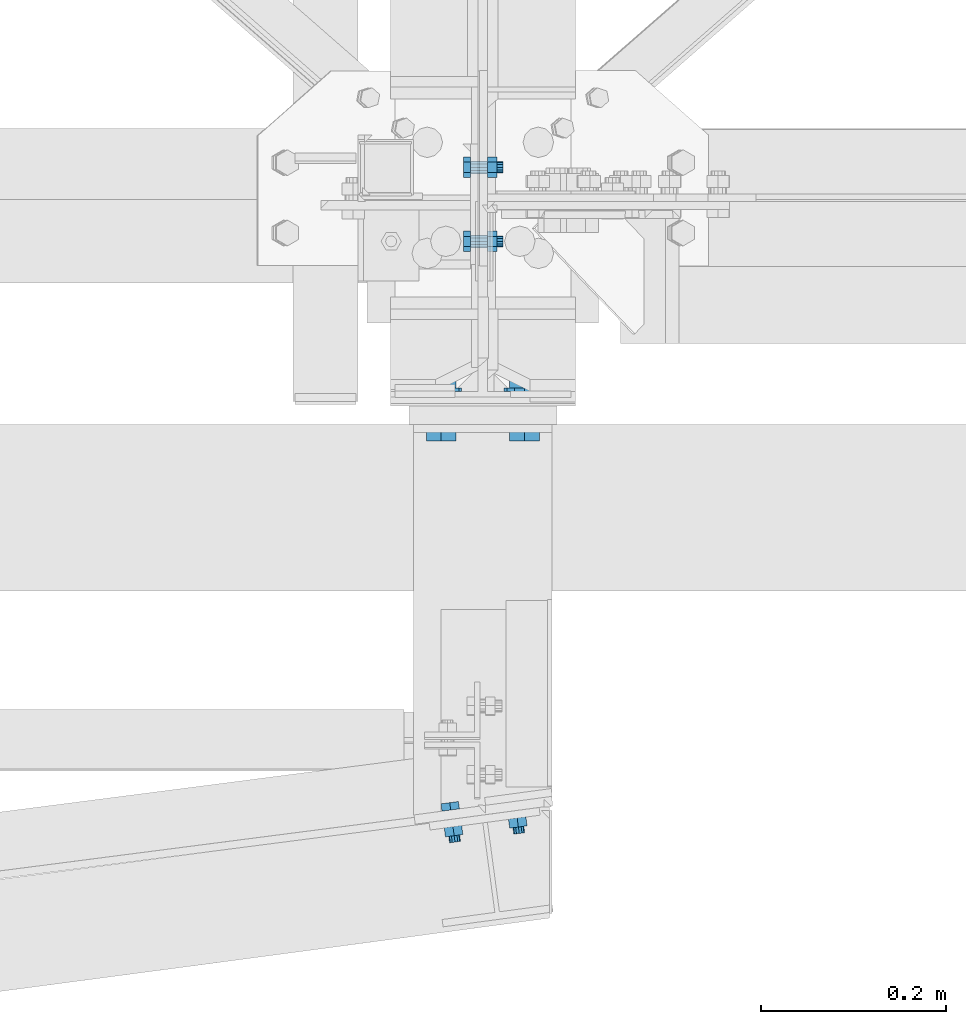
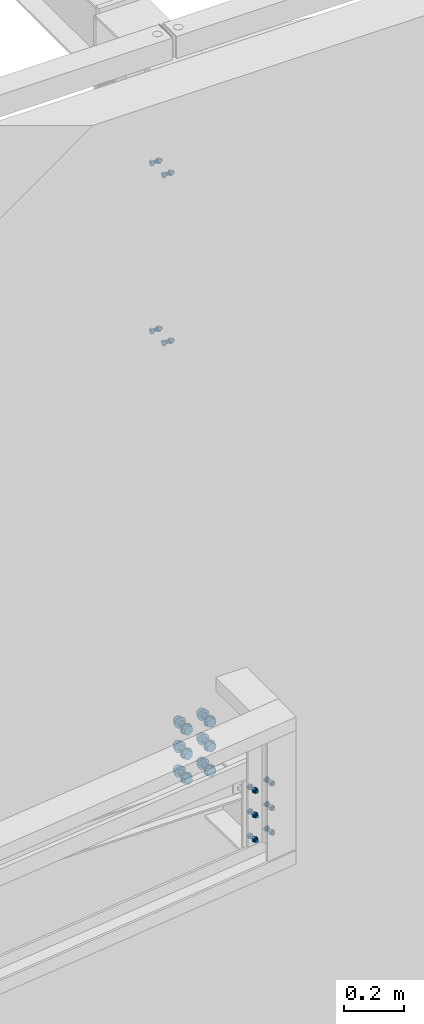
# One storey, part 108 of 3134: 4 mechanical fasteners, 3 elements without a shape of their own.
"""IFC2X3 building model written with IfcOpenShell, lengths in millimetres."""

from ifc_helpers import new_model, si_unit, frame, origin_with_axes, place, context, subcontext, project, spatial, faceted_brep, source, transform, mapped, material, type_object, element, aggregate, save


model = new_model("IFC2X3")

# Units and contexts
model_context = context("Model", 3, precision=1e-05, world=origin_with_axes())
body_context = subcontext(model_context, "Body", "Model", "MODEL_VIEW")
ifc_project = project(units=[si_unit("LENGTHUNIT", "METRE", prefix="MILLI"), si_unit("AREAUNIT", "SQUARE_METRE"), si_unit("VOLUMEUNIT", "CUBIC_METRE"), si_unit("MASSUNIT", "GRAM", prefix="KILO"), si_unit("TIMEUNIT", "SECOND"), si_unit("PLANEANGLEUNIT", "RADIAN"), si_unit("SOLIDANGLEUNIT", "STERADIAN"), si_unit("THERMODYNAMICTEMPERATUREUNIT", "DEGREE_CELSIUS"), si_unit("LUMINOUSINTENSITYUNIT", "LUMEN")], contexts=[model_context])

# Site, building, storey
site_placement = place(None, origin_with_axes())
site = spatial("IfcSite", under=ifc_project, at=site_placement, CompositionType="ELEMENT")
building_placement = place(site_placement, origin_with_axes())
building = spatial("IfcBuilding", under=site, at=building_placement, Name="Undefined", CompositionType="ELEMENT")
storey_placement = place(building_placement, origin_with_axes())
storey = spatial("IfcBuildingStorey", under=building, at=storey_placement, Name="Undefined", CompositionType="ELEMENT", Elevation=0.0)

# Assembly, mechanical fastener
assembly_1_placement = place(storey_placement, origin_with_axes())
assembly_1 = element("IfcElementAssembly", 1, at=assembly_1_placement, inside=storey, Name="UPN120", AssemblyPlace="NOTDEFINED", PredefinedType="RIGID_FRAME")
ifc_material_1 = material(Name="8.8")
mechanical_fastener_type = type_object("IfcMechanicalFastenerType", Name="Bolt assembly")
shared_shape_1 = source(origin_with_axes(), body_context, "Body", "Brep", [
    faceted_brep([(10.9696551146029, -7.99980031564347, 0.0), (5.48482755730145, -7.99980031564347, 9.5), (-5.48482755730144, -7.99980031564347, 9.5), (-10.9696551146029, -7.99980031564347, 1.34339530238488e-15), (-5.48482755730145, -7.99980031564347, -9.5), (5.48482755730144, -7.99980031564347, -9.50000000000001), (5.48482755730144, 0.000199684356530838, -9.50000000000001), (-5.48482755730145, 0.000199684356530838, -9.5), (-10.9696551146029, 0.000199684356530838, 1.34339530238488e-15), (-5.48482755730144, 0.000199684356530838, 9.5), (5.48482755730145, 0.000199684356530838, 9.5), (10.9696551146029, 0.000199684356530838, 0.0), (6.0, 0.000199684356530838, 0.0), (5.19615242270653, 0.000199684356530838, 3.00000000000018), (2.99999999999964, 0.000199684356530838, 5.19615242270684), (-6.21801588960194e-13, 0.000199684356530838, 6.0), (-3.00000000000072, 0.000199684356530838, 5.19615242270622), (-5.19615242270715, 0.000199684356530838, 2.9999999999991), (-6.0, 0.000199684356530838, -1.24360317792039e-12), (-5.19615242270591, 0.000199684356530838, -3.00000000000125), (-2.99999999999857, 0.000199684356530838, -5.19615242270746), (1.85874342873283e-12, 0.000199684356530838, -6.0), (3.00000000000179, 0.000199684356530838, -5.1961524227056), (5.19615242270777, 0.000199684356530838, -2.99999999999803), (5.19615242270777, 35.0001996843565, -2.99999999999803), (3.00000000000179, 35.0001996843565, -5.1961524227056), (1.85874342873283e-12, 35.0001996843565, -6.0), (-2.99999999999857, 35.0001996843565, -5.19615242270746), (-5.19615242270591, 35.0001996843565, -3.00000000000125), (-6.0, 35.0001996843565, -1.24360317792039e-12), (-5.19615242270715, 35.0001996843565, 2.9999999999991), (-3.00000000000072, 35.0001996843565, 5.19615242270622), (-6.21801588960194e-13, 35.0001996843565, 6.0), (2.99999999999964, 35.0001996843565, 5.19615242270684), (5.19615242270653, 35.0001996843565, 3.00000000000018), (6.0, 35.0001996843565, 0.0), (10.9696551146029, 18.0000503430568, 0.0), (5.48482755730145, 18.0000503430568, 9.5), (-5.48482755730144, 18.0000503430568, 9.5), (-10.9696551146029, 18.0000503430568, 1.34339530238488e-15), (-5.48482755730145, 18.0000503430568, -9.5), (5.48482755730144, 18.0000503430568, -9.50000000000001), (5.48482755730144, 28.0000503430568, -9.50000000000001), (-5.48482755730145, 28.0000503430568, -9.5), (-10.9696551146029, 28.0000503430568, 1.34339530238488e-15), (-5.48482755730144, 28.0000503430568, 9.5), (5.48482755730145, 28.0000503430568, 9.5), (10.9696551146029, 28.0000503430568, 0.0)], [[[0, 1, 2, 3, 4, 5]], [[6, 7, 8, 9, 10, 11]], [[0, 11, 10, 1]], [[1, 10, 9, 2]], [[2, 9, 8, 3]], [[3, 8, 7, 4]], [[4, 7, 6, 5]], [[5, 6, 11, 0]], [[12, 13, 14, 15, 16, 17, 18, 19, 20, 21, 22, 23]], [[24, 25, 26, 27, 28, 29, 30, 31, 32, 33, 34, 35]], [[12, 35, 34, 13]], [[13, 34, 33, 14]], [[14, 33, 32, 15]], [[15, 32, 31, 16]], [[16, 31, 30, 17]], [[17, 30, 29, 18]], [[18, 29, 28, 19]], [[19, 28, 27, 20]], [[20, 27, 26, 21]], [[21, 26, 25, 22]], [[22, 25, 24, 23]], [[23, 24, 35, 12]], [[36, 37, 38, 39, 40, 41]], [[42, 43, 44, 45, 46, 47]], [[36, 47, 46, 37]], [[37, 46, 45, 38]], [[38, 45, 44, 39]], [[39, 44, 43, 40]], [[40, 43, 42, 41]], [[41, 42, 47, 36]]]),
    faceted_brep([(7.0, 0.100152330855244, 0.0), (6.06217782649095, 0.100152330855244, 3.50000000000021), (3.49999999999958, 0.100152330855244, 6.06217782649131), (-7.25435187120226e-13, 0.100152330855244, 7.0), (-3.50000000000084, 0.100152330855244, 6.06217782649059), (-6.06217782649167, 0.100152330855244, 3.49999999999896), (-7.0, 0.100152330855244, -1.45087037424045e-12), (-6.06217782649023, 0.100152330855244, -3.50000000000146), (-3.49999999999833, 0.100152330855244, -6.06217782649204), (2.1685340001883e-12, 0.100152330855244, -7.0), (3.50000000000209, 0.100152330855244, -6.06217782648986), (6.0621778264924, 0.100152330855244, -3.4999999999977), (6.0621778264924, 10.1001996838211, -3.4999999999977), (3.50000000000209, 10.1001996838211, -6.06217782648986), (2.1685340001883e-12, 10.1001996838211, -7.0), (-3.49999999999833, 10.1001996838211, -6.06217782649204), (-6.06217782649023, 10.1001996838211, -3.50000000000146), (-7.0, 10.1001996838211, -1.45087037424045e-12), (-6.06217782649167, 10.1001996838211, 3.49999999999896), (-3.50000000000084, 10.1001996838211, 6.06217782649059), (-7.25435187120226e-13, 10.1001996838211, 7.0), (3.49999999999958, 10.1001996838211, 6.06217782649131), (6.06217782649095, 10.1001996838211, 3.50000000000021), (7.0, 10.1001996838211, 0.0), (7.0, 9.90005034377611, 0.0), (6.06217782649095, 9.90005034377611, 3.50000000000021), (3.49999999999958, 9.90005034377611, 6.06217782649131), (-7.25435187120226e-13, 9.90005034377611, 7.0), (-3.50000000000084, 9.90005034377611, 6.06217782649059), (-6.06217782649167, 9.90005034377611, 3.49999999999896), (-7.0, 9.90005034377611, -1.45087037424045e-12), (-6.06217782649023, 9.90005034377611, -3.50000000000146), (-3.49999999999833, 9.90005034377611, -6.06217782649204), (2.1685340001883e-12, 9.90005034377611, -7.0), (3.50000000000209, 9.90005034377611, -6.06217782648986), (6.0621778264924, 9.90005034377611, -3.4999999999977), (6.0621778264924, 18.0000503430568, -3.4999999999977), (3.50000000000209, 18.0000503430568, -6.06217782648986), (2.1685340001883e-12, 18.0000503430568, -7.0), (-3.49999999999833, 18.0000503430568, -6.06217782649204), (-6.06217782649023, 18.0000503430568, -3.50000000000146), (-7.0, 18.0000503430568, -1.45087037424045e-12), (-6.06217782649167, 18.0000503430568, 3.49999999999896), (-3.50000000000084, 18.0000503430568, 6.06217782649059), (-7.25435187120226e-13, 18.0000503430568, 7.0), (3.49999999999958, 18.0000503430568, 6.06217782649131), (6.06217782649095, 18.0000503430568, 3.50000000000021), (7.0, 18.0000503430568, 0.0)], [[[0, 1, 2, 3, 4, 5, 6, 7, 8, 9, 10, 11]], [[12, 13, 14, 15, 16, 17, 18, 19, 20, 21, 22, 23]], [[0, 23, 22, 1]], [[1, 22, 21, 2]], [[2, 21, 20, 3]], [[3, 20, 19, 4]], [[4, 19, 18, 5]], [[5, 18, 17, 6]], [[6, 17, 16, 7]], [[7, 16, 15, 8]], [[8, 15, 14, 9]], [[9, 14, 13, 10]], [[10, 13, 12, 11]], [[11, 12, 23, 0]], [[24, 25, 26, 27, 28, 29, 30, 31, 32, 33, 34, 35]], [[36, 37, 38, 39, 40, 41, 42, 43, 44, 45, 46, 47]], [[24, 47, 46, 25]], [[25, 46, 45, 26]], [[26, 45, 44, 27]], [[27, 44, 43, 28]], [[28, 43, 42, 29]], [[29, 42, 41, 30]], [[30, 41, 40, 31]], [[31, 40, 39, 32]], [[32, 39, 38, 33]], [[33, 38, 37, 34]], [[34, 37, 36, 35]], [[35, 36, 47, 24]]]),
])
mechanical_fastener_1_placement = place(assembly_1_placement, frame((44199.9993758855, -656.673038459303, 3279.28815992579), z_axis=(-0.991034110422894, -0.133609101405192, 0.0), x_axis=(0.0, 0.0, -1.0)))
mechanical_fastener_1 = element("IfcMechanicalFastener", 2, at=mechanical_fastener_1_placement, type_object=mechanical_fastener_type, material=ifc_material_1, Name="Bolt assembly", NominalDiameter=12.0, NominalLength=35.0, context=body_context, shape_type="MappedRepresentation", body=[
    mapped(shared_shape_1, transform((0.0, 0.0, -35.0))),
    mapped(shared_shape_1, transform((100.0, 2.05545802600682e-10, -35.0000000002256))),
    mapped(shared_shape_1, transform((200.0, 2.05545802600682e-10, -35.0000000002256))),
    mapped(shared_shape_1, transform((0.0, 0.0, 35.0))),
    mapped(shared_shape_1, transform((100.0, -2.07364792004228e-10, 35.0000000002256))),
    mapped(shared_shape_1, transform((200.0, -2.07364792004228e-10, 35.0000000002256))),
])
aggregate(assembly_1, [mechanical_fastener_1])

assembly_2_placement = place(storey_placement, origin_with_axes())
assembly_2 = element("IfcElementAssembly", 3, at=assembly_2_placement, inside=storey, Name="300", AssemblyPlace="NOTDEFINED", PredefinedType="RIGID_FRAME")
ifc_material_2 = material(Name="HR10.9")
shared_shape_2 = source(origin_with_axes(), body_context, "Body", "Brep", [
    faceted_brep([(18.475208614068, -17.599999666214, 0.0), (9.23760430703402, -17.599999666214, 16.0), (-9.23760430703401, -17.599999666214, 16.0), (-18.475208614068, -17.599999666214, 2.2625605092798e-15), (-9.23760430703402, -17.599999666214, -16.0), (9.237604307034, -17.599999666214, -16.0), (9.237604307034, -3.70000004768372, -16.0), (-9.23760430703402, -3.70000004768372, -16.0), (-18.475208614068, -3.70000004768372, 2.2625605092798e-15), (-9.23760430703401, -3.70000004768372, 16.0), (9.23760430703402, -3.70000004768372, 16.0), (18.475208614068, -3.70000004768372, 0.0), (10.0, -3.70000004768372, 0.0), (8.66025403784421, -3.70000004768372, 5.0000000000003), (4.9999999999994, -3.70000004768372, 8.66025403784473), (-1.03633598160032e-12, -3.70000004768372, 10.0), (-5.00000000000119, -3.70000004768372, 8.6602540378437), (-8.66025403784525, -3.70000004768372, 4.99999999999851), (-10.0, -3.70000004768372, -2.07267196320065e-12), (-8.66025403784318, -3.70000004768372, -5.00000000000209), (-4.99999999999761, -3.70000004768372, -8.66025403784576), (3.09790571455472e-12, -3.70000004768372, -10.0), (5.00000000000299, -3.70000004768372, -8.66025403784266), (8.66025403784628, -3.70000004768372, -4.99999999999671), (8.66025403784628, 66.2999999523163, -4.99999999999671), (5.00000000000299, 66.2999999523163, -8.66025403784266), (3.09790571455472e-12, 66.2999999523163, -10.0), (-4.99999999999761, 66.2999999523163, -8.66025403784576), (-8.66025403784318, 66.2999999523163, -5.00000000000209), (-10.0, 66.2999999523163, -2.07267196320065e-12), (-8.66025403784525, 66.2999999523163, 4.99999999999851), (-5.00000000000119, 66.2999999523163, 8.6602540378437), (-1.03633598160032e-12, 66.2999999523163, 10.0), (4.9999999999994, 66.2999999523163, 8.66025403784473), (8.66025403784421, 66.2999999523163, 5.0000000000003), (10.0, 66.2999999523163, 0.0), (22.0, -3.70000004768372, 0.0), (19.0525588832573, -3.70000004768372, 11.0000000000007), (10.9999999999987, -3.70000004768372, 19.0525588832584), (-2.27993915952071e-12, -3.70000004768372, 22.0), (-11.0000000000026, -3.70000004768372, 19.0525588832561), (-19.0525588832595, -3.70000004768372, 10.9999999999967), (-22.0, -3.70000004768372, -4.55987831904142e-12), (-19.052558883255, -3.70000004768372, -11.0000000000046), (-10.9999999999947, -3.70000004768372, -19.0525588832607), (6.81539257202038e-12, -3.70000004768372, -22.0), (11.0000000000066, -3.70000004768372, -19.0525588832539), (19.0525588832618, -3.70000004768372, -10.9999999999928), (19.0525588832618, 0.0, -10.9999999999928), (11.0000000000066, 0.0, -19.0525588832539), (6.81539257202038e-12, 0.0, -22.0), (-10.9999999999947, 0.0, -19.0525588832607), (-19.052558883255, 0.0, -11.0000000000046), (-22.0, 0.0, -4.55987831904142e-12), (-19.0525588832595, 0.0, 10.9999999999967), (-11.0000000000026, 0.0, 19.0525588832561), (-2.27993915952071e-12, 0.0, 22.0), (10.9999999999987, 0.0, 19.0525588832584), (19.0525588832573, 0.0, 11.0000000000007), (22.0, 0.0, 0.0), (22.0, 36.0, 0.0), (19.0525588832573, 36.0, 11.0000000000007), (10.9999999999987, 36.0, 19.0525588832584), (-2.27993915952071e-12, 36.0, 22.0), (-11.0000000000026, 36.0, 19.0525588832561), (-19.0525588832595, 36.0, 10.9999999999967), (-22.0, 36.0, -4.55987831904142e-12), (-19.052558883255, 36.0, -11.0000000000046), (-10.9999999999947, 36.0, -19.0525588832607), (6.81539257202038e-12, 36.0, -22.0), (11.0000000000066, 36.0, -19.0525588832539), (19.0525588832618, 36.0, -10.9999999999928), (19.0525588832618, 39.7000000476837, -10.9999999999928), (11.0000000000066, 39.7000000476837, -19.0525588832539), (6.81539257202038e-12, 39.7000000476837, -22.0), (-10.9999999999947, 39.7000000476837, -19.0525588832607), (-19.052558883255, 39.7000000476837, -11.0000000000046), (-22.0, 39.7000000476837, -4.55987831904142e-12), (-19.0525588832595, 39.7000000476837, 10.9999999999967), (-11.0000000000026, 39.7000000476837, 19.0525588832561), (-2.27993915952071e-12, 39.7000000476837, 22.0), (10.9999999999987, 39.7000000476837, 19.0525588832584), (19.0525588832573, 39.7000000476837, 11.0000000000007), (22.0, 39.7000000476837, 0.0), (18.475208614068, 39.7000000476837, 0.0), (9.23760430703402, 39.7000000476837, 16.0), (-9.23760430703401, 39.7000000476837, 16.0), (-18.475208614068, 39.7000000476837, 2.2625605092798e-15), (-9.23760430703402, 39.7000000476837, -16.0), (9.237604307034, 39.7000000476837, -16.0), (9.237604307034, 58.2499992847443, -16.0), (-9.23760430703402, 58.2499992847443, -16.0), (-18.475208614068, 58.2499992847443, 2.2625605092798e-15), (-9.23760430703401, 58.2499992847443, 16.0), (9.23760430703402, 58.2499992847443, 16.0), (18.475208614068, 58.2499992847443, 0.0)], [[[0, 1, 2, 3, 4, 5]], [[6, 7, 8, 9, 10, 11]], [[0, 11, 10, 1]], [[1, 10, 9, 2]], [[2, 9, 8, 3]], [[3, 8, 7, 4]], [[4, 7, 6, 5]], [[5, 6, 11, 0]], [[12, 13, 14, 15, 16, 17, 18, 19, 20, 21, 22, 23]], [[24, 25, 26, 27, 28, 29, 30, 31, 32, 33, 34, 35]], [[12, 35, 34, 13]], [[13, 34, 33, 14]], [[14, 33, 32, 15]], [[15, 32, 31, 16]], [[16, 31, 30, 17]], [[17, 30, 29, 18]], [[18, 29, 28, 19]], [[19, 28, 27, 20]], [[20, 27, 26, 21]], [[21, 26, 25, 22]], [[22, 25, 24, 23]], [[23, 24, 35, 12]], [[36, 37, 38, 39, 40, 41, 42, 43, 44, 45, 46, 47]], [[48, 49, 50, 51, 52, 53, 54, 55, 56, 57, 58, 59]], [[36, 59, 58, 37]], [[37, 58, 57, 38]], [[38, 57, 56, 39]], [[39, 56, 55, 40]], [[40, 55, 54, 41]], [[41, 54, 53, 42]], [[42, 53, 52, 43]], [[43, 52, 51, 44]], [[44, 51, 50, 45]], [[45, 50, 49, 46]], [[46, 49, 48, 47]], [[47, 48, 59, 36]], [[60, 61, 62, 63, 64, 65, 66, 67, 68, 69, 70, 71]], [[72, 73, 74, 75, 76, 77, 78, 79, 80, 81, 82, 83]], [[60, 83, 82, 61]], [[61, 82, 81, 62]], [[62, 81, 80, 63]], [[63, 80, 79, 64]], [[64, 79, 78, 65]], [[65, 78, 77, 66]], [[66, 77, 76, 67]], [[67, 76, 75, 68]], [[68, 75, 74, 69]], [[69, 74, 73, 70]], [[70, 73, 72, 71]], [[71, 72, 83, 60]], [[84, 85, 86, 87, 88, 89]], [[90, 91, 92, 93, 94, 95]], [[84, 95, 94, 85]], [[85, 94, 93, 86]], [[86, 93, 92, 87]], [[87, 92, 91, 88]], [[88, 91, 90, 89]], [[89, 90, 95, 84]]]),
    faceted_brep([(11.0, 19.9, 0.0), (9.52627944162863, 19.9, 5.50000000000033), (5.49999999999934, 19.9, 9.5262794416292), (-1.13996957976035e-12, 19.9, 11.0), (-5.50000000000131, 19.9, 9.52627944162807), (-9.52627944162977, 19.9, 5.49999999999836), (-11.0, 19.9, -2.27993915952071e-12), (-9.5262794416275, 19.9, -5.5000000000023), (-5.49999999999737, 19.9, -9.52627944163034), (3.40769628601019e-12, 19.9, -11.0), (5.50000000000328, 19.9, -9.52627944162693), (9.52627944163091, 19.9, -5.49999999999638), (9.52627944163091, 36.0, -5.49999999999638), (5.50000000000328, 36.0, -9.52627944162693), (3.40769628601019e-12, 36.0, -11.0), (-5.49999999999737, 36.0, -9.52627944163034), (-9.5262794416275, 36.0, -5.5000000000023), (-11.0, 36.0, -2.27993915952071e-12), (-9.52627944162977, 36.0, 5.49999999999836), (-5.50000000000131, 36.0, 9.52627944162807), (-1.13996957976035e-12, 36.0, 11.0), (5.49999999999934, 36.0, 9.5262794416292), (9.52627944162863, 36.0, 5.50000000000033), (11.0, 36.0, 0.0), (11.0, 0.0999999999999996, 0.0), (9.52627944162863, 0.0999999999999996, 5.50000000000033), (5.49999999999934, 0.0999999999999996, 9.5262794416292), (-1.13996957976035e-12, 0.0999999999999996, 11.0), (-5.50000000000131, 0.0999999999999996, 9.52627944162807), (-9.52627944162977, 0.0999999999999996, 5.49999999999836), (-11.0, 0.0999999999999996, -2.27993915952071e-12), (-9.5262794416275, 0.0999999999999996, -5.5000000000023), (-5.49999999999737, 0.0999999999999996, -9.52627944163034), (3.40769628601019e-12, 0.0999999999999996, -11.0), (5.50000000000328, 0.0999999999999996, -9.52627944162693), (9.52627944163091, 0.0999999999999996, -5.49999999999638), (9.52627944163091, 20.1, -5.49999999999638), (5.50000000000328, 20.1, -9.52627944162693), (3.40769628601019e-12, 20.1, -11.0), (-5.49999999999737, 20.1, -9.52627944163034), (-9.5262794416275, 20.1, -5.5000000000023), (-11.0, 20.1, -2.27993915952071e-12), (-9.52627944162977, 20.1, 5.49999999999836), (-5.50000000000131, 20.1, 9.52627944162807), (-1.13996957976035e-12, 20.1, 11.0), (5.49999999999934, 20.1, 9.5262794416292), (9.52627944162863, 20.1, 5.50000000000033), (11.0, 20.1, 0.0)], [[[0, 1, 2, 3, 4, 5, 6, 7, 8, 9, 10, 11]], [[12, 13, 14, 15, 16, 17, 18, 19, 20, 21, 22, 23]], [[0, 23, 22, 1]], [[1, 22, 21, 2]], [[2, 21, 20, 3]], [[3, 20, 19, 4]], [[4, 19, 18, 5]], [[5, 18, 17, 6]], [[6, 17, 16, 7]], [[7, 16, 15, 8]], [[8, 15, 14, 9]], [[9, 14, 13, 10]], [[10, 13, 12, 11]], [[11, 12, 23, 0]], [[24, 25, 26, 27, 28, 29, 30, 31, 32, 33, 34, 35]], [[36, 37, 38, 39, 40, 41, 42, 43, 44, 45, 46, 47]], [[24, 47, 46, 25]], [[25, 46, 45, 26]], [[26, 45, 44, 27]], [[27, 44, 43, 28]], [[28, 43, 42, 29]], [[29, 42, 41, 30]], [[30, 41, 40, 31]], [[31, 40, 39, 32]], [[32, 39, 38, 33]], [[33, 38, 37, 34]], [[34, 37, 36, 35]], [[35, 36, 47, 24]]]),
])
mechanical_fastener_2_placement = place(assembly_2_placement, frame((44200.0, -245.0, 3270.85230476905), z_axis=(1.0, 0.0, 0.0), x_axis=(0.0, 0.0, -1.0)))
mechanical_fastener_2 = element("IfcMechanicalFastener", 4, at=mechanical_fastener_2_placement, type_object=mechanical_fastener_type, material=ifc_material_2, Name="Bolt assembly", NominalDiameter=20.0, NominalLength=70.0, context=body_context, shape_type="MappedRepresentation", body=[
    mapped(shared_shape_2, transform((0.0, 0.0, -45.0))),
    mapped(shared_shape_2, transform((100.0, 0.0, -45.0))),
    mapped(shared_shape_2, transform((200.0, 0.0, -45.0))),
    mapped(shared_shape_2, transform((0.0, 0.0, 45.0))),
    mapped(shared_shape_2, transform((100.0, 0.0, 45.0))),
    mapped(shared_shape_2, transform((200.0, 0.0, 45.0))),
])
aggregate(assembly_2, [mechanical_fastener_2])

# Assembly, mechanical fasteners
assembly_3_placement = place(storey_placement, origin_with_axes())
assembly_3 = element("IfcElementAssembly", 5, at=assembly_3_placement, inside=storey, AssemblyPlace="NOTDEFINED", PredefinedType="RIGID_FRAME")
shared_shape_3 = source(origin_with_axes(), body_context, "Body", "Brep", [
    faceted_brep([(10.9696551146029, -16.0, 0.0), (5.48482755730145, -16.0, 9.5), (-5.48482755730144, -16.0, 9.5), (-10.9696551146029, -16.0, 1.34339530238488e-15), (-5.48482755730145, -16.0, -9.5), (5.48482755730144, -16.0, -9.50000000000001), (5.48482755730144, -8.0, -9.50000000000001), (-5.48482755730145, -8.0, -9.5), (-10.9696551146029, -8.0, 1.34339530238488e-15), (-5.48482755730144, -8.0, 9.5), (5.48482755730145, -8.0, 9.5), (10.9696551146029, -8.0, 0.0), (6.0, -8.0, 0.0), (5.19615242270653, -8.0, 3.00000000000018), (2.99999999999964, -8.0, 5.19615242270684), (-6.21801588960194e-13, -8.0, 6.0), (-3.00000000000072, -8.0, 5.19615242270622), (-5.19615242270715, -8.0, 2.9999999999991), (-6.0, -8.0, -1.24360317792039e-12), (-5.19615242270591, -8.0, -3.00000000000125), (-2.99999999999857, -8.0, -5.19615242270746), (1.85874342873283e-12, -8.0, -6.0), (3.00000000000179, -8.0, -5.1961524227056), (5.19615242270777, -8.0, -2.99999999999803), (5.19615242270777, 27.0, -2.99999999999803), (3.00000000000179, 27.0, -5.1961524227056), (1.85874342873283e-12, 27.0, -6.0), (-2.99999999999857, 27.0, -5.19615242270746), (-5.19615242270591, 27.0, -3.00000000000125), (-6.0, 27.0, -1.24360317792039e-12), (-5.19615242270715, 27.0, 2.9999999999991), (-3.00000000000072, 27.0, 5.19615242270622), (-6.21801588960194e-13, 27.0, 6.0), (2.99999999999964, 27.0, 5.19615242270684), (5.19615242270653, 27.0, 3.00000000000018), (6.0, 27.0, 0.0), (10.9696551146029, 10.1999998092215, 0.0), (5.48482755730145, 10.1999998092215, 9.5), (-5.48482755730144, 10.1999998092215, 9.5), (-10.9696551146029, 10.1999998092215, 1.34339530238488e-15), (-5.48482755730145, 10.1999998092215, -9.5), (5.48482755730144, 10.1999998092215, -9.50000000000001), (5.48482755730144, 20.1999998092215, -9.50000000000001), (-5.48482755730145, 20.1999998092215, -9.5), (-10.9696551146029, 20.1999998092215, 1.34339530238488e-15), (-5.48482755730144, 20.1999998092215, 9.5), (5.48482755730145, 20.1999998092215, 9.5), (10.9696551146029, 20.1999998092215, 0.0)], [[[0, 1, 2, 3, 4, 5]], [[6, 7, 8, 9, 10, 11]], [[0, 11, 10, 1]], [[1, 10, 9, 2]], [[2, 9, 8, 3]], [[3, 8, 7, 4]], [[4, 7, 6, 5]], [[5, 6, 11, 0]], [[12, 13, 14, 15, 16, 17, 18, 19, 20, 21, 22, 23]], [[24, 25, 26, 27, 28, 29, 30, 31, 32, 33, 34, 35]], [[12, 35, 34, 13]], [[13, 34, 33, 14]], [[14, 33, 32, 15]], [[15, 32, 31, 16]], [[16, 31, 30, 17]], [[17, 30, 29, 18]], [[18, 29, 28, 19]], [[19, 28, 27, 20]], [[20, 27, 26, 21]], [[21, 26, 25, 22]], [[22, 25, 24, 23]], [[23, 24, 35, 12]], [[36, 37, 38, 39, 40, 41]], [[42, 43, 44, 45, 46, 47]], [[36, 47, 46, 37]], [[37, 46, 45, 38]], [[38, 45, 44, 39]], [[39, 44, 43, 40]], [[40, 43, 42, 41]], [[41, 42, 47, 36]]]),
    faceted_brep([(7.0, -0.1, 0.0), (6.06217782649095, -0.1, 3.50000000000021), (3.49999999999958, -0.1, 6.06217782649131), (-7.25435187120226e-13, -0.1, 7.0), (-3.50000000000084, -0.1, 6.06217782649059), (-6.06217782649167, -0.1, 3.49999999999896), (-7.0, -0.1, -1.45087037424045e-12), (-6.06217782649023, -0.1, -3.50000000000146), (-3.49999999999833, -0.1, -6.06217782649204), (2.1685340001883e-12, -0.1, -7.0), (3.50000000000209, -0.1, -6.06217782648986), (6.0621778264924, -0.1, -3.4999999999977), (6.0621778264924, 10.1999998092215, -3.4999999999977), (3.50000000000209, 10.1999998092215, -6.06217782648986), (2.1685340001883e-12, 10.1999998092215, -7.0), (-3.49999999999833, 10.1999998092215, -6.06217782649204), (-6.06217782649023, 10.1999998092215, -3.50000000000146), (-7.0, 10.1999998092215, -1.45087037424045e-12), (-6.06217782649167, 10.1999998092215, 3.49999999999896), (-3.50000000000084, 10.1999998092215, 6.06217782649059), (-7.25435187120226e-13, 10.1999998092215, 7.0), (3.49999999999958, 10.1999998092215, 6.06217782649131), (6.06217782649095, 10.1999998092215, 3.50000000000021), (7.0, 10.1999998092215, 0.0), (7.0, -7.9, 0.0), (6.06217782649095, -7.9, 3.50000000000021), (3.49999999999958, -7.9, 6.06217782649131), (-7.25435187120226e-13, -7.9, 7.0), (-3.50000000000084, -7.9, 6.06217782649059), (-6.06217782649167, -7.9, 3.49999999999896), (-7.0, -7.9, -1.45087037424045e-12), (-6.06217782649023, -7.9, -3.50000000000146), (-3.49999999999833, -7.9, -6.06217782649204), (2.1685340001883e-12, -7.9, -7.0), (3.50000000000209, -7.9, -6.06217782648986), (6.0621778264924, -7.9, -3.4999999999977), (6.0621778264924, 0.0999999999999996, -3.4999999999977), (3.50000000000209, 0.0999999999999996, -6.06217782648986), (2.1685340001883e-12, 0.0999999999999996, -7.0), (-3.49999999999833, 0.0999999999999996, -6.06217782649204), (-6.06217782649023, 0.0999999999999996, -3.50000000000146), (-7.0, 0.0999999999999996, -1.45087037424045e-12), (-6.06217782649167, 0.0999999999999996, 3.49999999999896), (-3.50000000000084, 0.0999999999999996, 6.06217782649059), (-7.25435187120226e-13, 0.0999999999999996, 7.0), (3.49999999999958, 0.0999999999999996, 6.06217782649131), (6.06217782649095, 0.0999999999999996, 3.50000000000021), (7.0, 0.0999999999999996, 0.0)], [[[0, 1, 2, 3, 4, 5, 6, 7, 8, 9, 10, 11]], [[12, 13, 14, 15, 16, 17, 18, 19, 20, 21, 22, 23]], [[0, 23, 22, 1]], [[1, 22, 21, 2]], [[2, 21, 20, 3]], [[3, 20, 19, 4]], [[4, 19, 18, 5]], [[5, 18, 17, 6]], [[6, 17, 16, 7]], [[7, 16, 15, 8]], [[8, 15, 14, 9]], [[9, 14, 13, 10]], [[10, 13, 12, 11]], [[11, 12, 23, 0]], [[24, 25, 26, 27, 28, 29, 30, 31, 32, 33, 34, 35]], [[36, 37, 38, 39, 40, 41, 42, 43, 44, 45, 46, 47]], [[24, 47, 46, 25]], [[25, 46, 45, 26]], [[26, 45, 44, 27]], [[27, 44, 43, 28]], [[28, 43, 42, 29]], [[29, 42, 41, 30]], [[30, 41, 40, 31]], [[31, 40, 39, 32]], [[32, 39, 38, 33]], [[33, 38, 37, 34]], [[34, 37, 36, 35]], [[35, 36, 47, 24]]]),
])
mechanical_fastener_3_placement = place(assembly_3_placement, frame((44194.9000000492, 33.0001130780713, 4712.09497690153), z_axis=(0.0, 0.0, 1.0), x_axis=(0.0, -1.0, 0.0)))
mechanical_fastener_3 = element("IfcMechanicalFastener", 6, at=mechanical_fastener_3_placement, type_object=mechanical_fastener_type, material=ifc_material_1, Name="Bolt assembly", NominalDiameter=12.0, NominalLength=35.0, context=body_context, shape_type="MappedRepresentation", body=[
    mapped(shared_shape_3, transform((0.0, 0.0, 0.0))),
    mapped(shared_shape_3, transform((80.0, 0.0, 0.0))),
])
mechanical_fastener_4_placement = place(assembly_3_placement, frame((44194.9000000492, 33.0001130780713, 5397.09497690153), z_axis=(0.0, 0.0, 1.0), x_axis=(0.0, -1.0, 0.0)))
mechanical_fastener_4 = element("IfcMechanicalFastener", 7, at=mechanical_fastener_4_placement, type_object=mechanical_fastener_type, material=ifc_material_1, Name="Bolt assembly", NominalDiameter=12.0, NominalLength=35.0, context=body_context, shape_type="MappedRepresentation", body=[
    mapped(shared_shape_3, transform((0.0, 0.0, 0.0))),
    mapped(shared_shape_3, transform((80.0, 0.0, 0.0))),
])
aggregate(assembly_3, [mechanical_fastener_3, mechanical_fastener_4])

save(model, "model.ifc")
